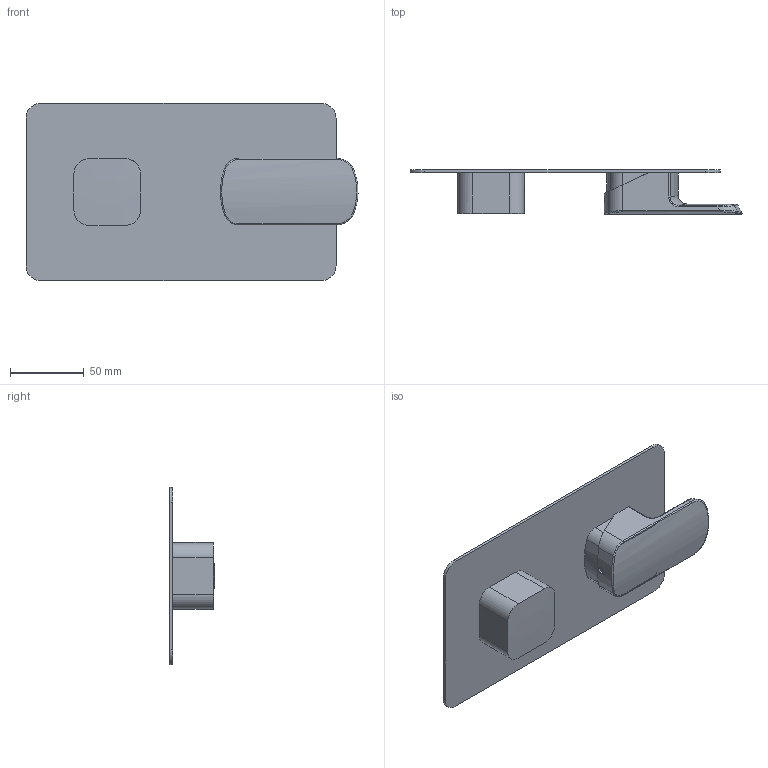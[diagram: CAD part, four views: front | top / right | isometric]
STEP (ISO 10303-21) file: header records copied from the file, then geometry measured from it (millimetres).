
FILE_DESCRIPTION (( 'STEP AP214' ), '1' );
FILE_NAME ('56225310 x architetti.STEP', '2024-10-25T13:58:28', ( '' ), ( '' ), 'SwSTEP 2.0', 'SolidWorks 2020', '' );
FILE_SCHEMA (( 'AUTOMOTIVE_DESIGN' ));
Length unit declared in the file: millimetre
Products named in the file (1): 56225310 x architetti
Bounding box: 224.85 x 30.33 x 120 mm (x, y, z)
Volume: 169112.4 mm3; surface area: 68474.5 mm2
Topology: 1 solids, 3 shells, 103 faces, 250 edges, 160 vertices
Faces by surface type: cylinder 48, plane 37, bspline 16, torus 2
Entity records: 5167 total; most frequent: CARTESIAN_POINT 1825, ORIENTED_EDGE 500, DIRECTION 447, EDGE_CURVE 250, AXIS2_PLACEMENT_3D 160, VERTEX_POINT 160, LINE 127, VECTOR 127
